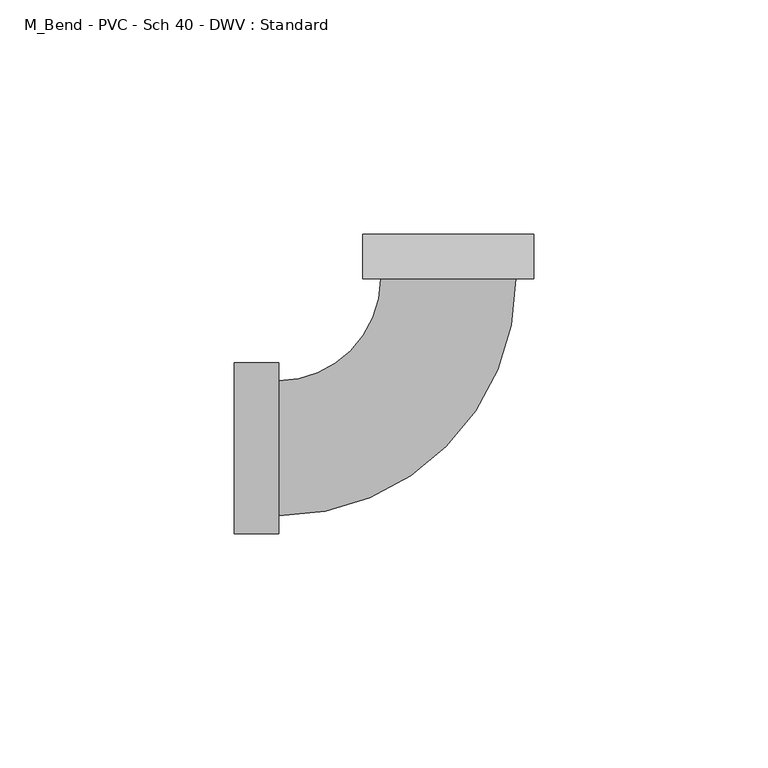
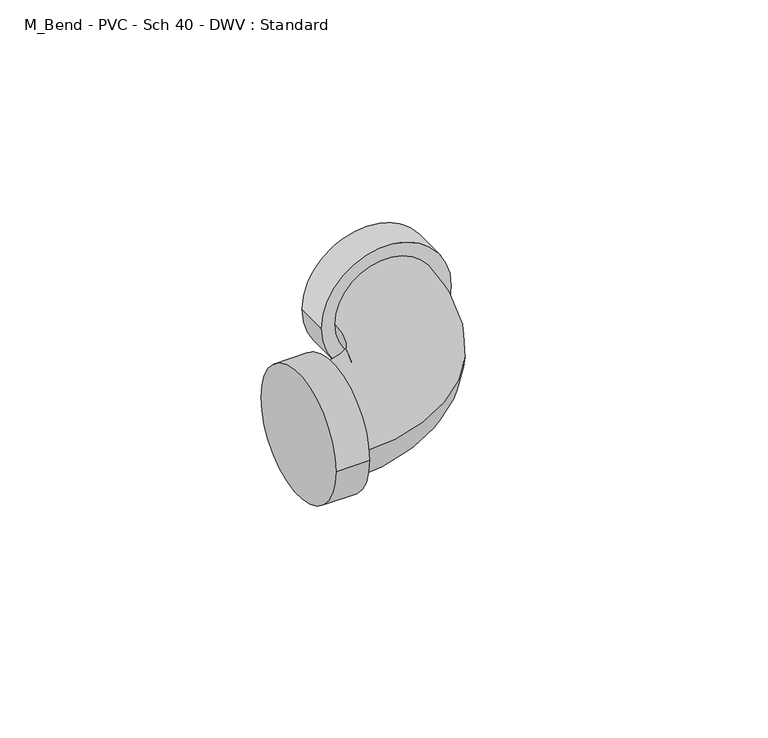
"""IFC4 building model written with IfcOpenShell, lengths in millimetres: pipe fitting geometry, M_Bend - PVC - Sch 40 - DWV : Standard."""

from ifc_helpers import new_model, si_unit, point, frame, origin, place, context, project, spatial, circle_curve, ellipse_curve, trimmed, source, transform, mapped, element, save
from ifc_brep_helpers import plane_surface, cylinder_surface, revolved_surface, advanced_brep


def m_bend_pvc_sch_40_dwv_standard_6b4332b1(model_context):
    return source(origin(), model_context, "Body", "AdvancedBrep", [
        advanced_brep(
        [(-45.6540625, -18.2471094, 0.0), (-45.6540625, 18.2471094, 0.0), (-36.1540625, -18.2471094, 0.0), (-36.1540625, 18.2471094, 0.0), (-36.1540625, -14.4440625, 0.0), (-36.1540625, 14.4440625, 0.0), (-14.4441147, 36.1540417, 0.0), (14.4440103, 36.1540833, 0.0), (18.2470572, 36.1540888, 0.0), (-18.2471615, 36.1540362, 0.0), (18.2470435, 45.6540888, 0.0), (-18.2471752, 45.6540362, 0.0)],
        [
            (0, 1, circle_curve(frame((-45.6540625, 0.0, 0.0), z_axis=(-1.0, 0.0, 0.0), x_axis=(0.0, 1.0, 0.0)), 18.2471094)),
            (1, 0, circle_curve(frame((-45.6540625, 0.0, 0.0), z_axis=(-1.0, 0.0, 0.0), x_axis=(0.0, 1.0, 0.0)), 18.2471094)),
            (2, 3, circle_curve(frame((-36.1540625, 0.0, 0.0), z_axis=(1.0, 0.0, 0.0), x_axis=(0.0, 1.0, 0.0)), 18.2471094)),
            (3, 2, circle_curve(frame((-36.1540625, 0.0, 0.0), z_axis=(1.0, 0.0, 0.0), x_axis=(0.0, 1.0, 0.0)), 18.2471094)),
            (4, 5, circle_curve(frame((-36.1540625, 0.0, 0.0), z_axis=(-1.0, 0.0, 0.0), x_axis=(0.0, 1.0, 0.0)), 14.4440625)),
            (5, 4, circle_curve(frame((-36.1540625, 0.0, 0.0), z_axis=(-1.0, 0.0, 0.0), x_axis=(0.0, 1.0, 0.0)), 14.4440625)),
            (0, 2),
            (3, 1),
            (6, 5, circle_curve(frame((-36.1540625, 36.1540103, 0.0), z_axis=(0.0, 0.0, -1.0), x_axis=(0.0, -1.0, 0.0)), 21.7099478)),
            (4, 7, circle_curve(frame((-36.1540625, 36.1540103, 0.0), z_axis=(0.0, 0.0, 1.0), x_axis=(0.0, -1.0, 0.0)), 50.5980728)),
            (7, 6, circle_curve(frame((-5.22e-05, 36.1540625, 0.0), z_axis=(1.4426912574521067e-06, -0.9999999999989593, 0.0), x_axis=(-0.9999999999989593, -1.4426912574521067e-06, 0.0)), 14.4440625)),
            (6, 7, circle_curve(frame((-5.22e-05, 36.1540625, 0.0), z_axis=(1.4426912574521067e-06, -0.9999999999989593, 0.0), x_axis=(-0.9999999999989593, -1.4426912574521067e-06, 0.0)), 14.4440625)),
            (8, 9, circle_curve(frame((-5.22e-05, 36.1540625, 0.0), z_axis=(1.4426912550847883e-06, -0.9999999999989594, 0.0), x_axis=(-0.9999999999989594, -1.4426912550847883e-06, 0.0)), 18.2471094)),
            (9, 8, circle_curve(frame((-5.22e-05, 36.1540625, 0.0), z_axis=(1.4426912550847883e-06, -0.9999999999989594, 0.0), x_axis=(-0.9999999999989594, -1.4426912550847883e-06, 0.0)), 18.2471094)),
            (10, 11, circle_curve(frame((-6.59e-05, 45.6540625, 0.0), z_axis=(-1.4426912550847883e-06, 0.9999999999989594, 0.0), x_axis=(-0.9999999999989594, -1.4426912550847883e-06, 0.0)), 18.2471094)),
            (11, 10, circle_curve(frame((-6.59e-05, 45.6540625, 0.0), z_axis=(-1.4426912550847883e-06, 0.9999999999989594, 0.0), x_axis=(-0.9999999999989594, -1.4426912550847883e-06, 0.0)), 18.2471094)),
            (8, 10),
            (11, 9),
        ],
        [
            plane_surface(frame((-45.6540625, 0.0, 0.0), z_axis=(-1.0, 0.0, 0.0), x_axis=(0.0, 0.0, 1.0))),
            plane_surface(frame((-36.1540625, 0.0, 0.0), z_axis=(1.0, 0.0, 0.0), x_axis=(0.0, 0.0, 1.0))),
            cylinder_surface(frame((-45.6540625, 0.0, 0.0), z_axis=(-1.0, 0.0, 0.0), x_axis=(0.0, 1.0, 0.0)), 18.2471094),
            revolved_surface(trimmed(ellipse_curve(frame((-36.1540625, 0.0, 0.0), z_axis=(-1.0, 0.0, 0.0), x_axis=(0.0, 1.0, 0.0)), 14.4440625, 14.4440625), [point((-36.1540625, -14.4440625, 0.0))], [point((-36.1540625, 14.4440625, 0.0))], True, "CARTESIAN"), (-36.1540625, 36.1540103, 0.0), (0.0, 0.0, 1.0)),
            revolved_surface(trimmed(ellipse_curve(frame((-36.1540625, 0.0, 0.0), z_axis=(-1.0, 0.0, 0.0), x_axis=(0.0, 1.0, 0.0)), 14.4440625, 14.4440625), [point((-36.1540625, 14.4440625, 0.0))], [point((-36.1540625, -14.4440625, 0.0))], True, "CARTESIAN"), (-36.1540625, 36.1540103, 0.0), (0.0, 0.0, 1.0)),
            plane_surface(frame((-5.22e-05, 36.1540625, 0.0), z_axis=(1.4426912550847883e-06, -0.9999999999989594, 0.0), x_axis=(0.0, 0.0, 1.0))),
            plane_surface(frame((-6.59e-05, 45.6540625, 0.0), z_axis=(-1.4426912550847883e-06, 0.9999999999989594, 0.0), x_axis=(0.0, 0.0, 1.0))),
            cylinder_surface(frame((-5.22e-05, 36.1540625, 0.0), z_axis=(1.4426912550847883e-06, -0.9999999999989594, 0.0), x_axis=(-0.9999999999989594, -1.4426912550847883e-06, 0.0)), 18.2471094),
        ],
        [
            (0, [[1, 2]]),
            (1, [[3, 4], [5, 6]]),
            (2, [[-1, 7, -4, 8]]),
            (2, [[-2, -8, -3, -7]]),
            (3, [[9, -5, 10, 11]]),
            (4, [[-9, 12, -10, -6]]),
            (5, [[13, 14], [-11, -12]]),
            (6, [[15, 16]]),
            (7, [[-13, 17, -16, 18]]),
            (7, [[-14, -18, -15, -17]]),
        ],
    ),
    ])


if __name__ == "__main__":
    model = new_model("IFC4")
    model_context = context("Model", 3, world=origin())
    ifc_project = project(units=[si_unit("LENGTHUNIT", "METRE", prefix="MILLI")], contexts=[model_context])
    site = spatial("IfcSite", under=ifc_project)
    building = spatial("IfcBuilding", under=site)
    placement = place(None, origin())
    m_bend_pvc_sch_40_dwv_standard_shape = m_bend_pvc_sch_40_dwv_standard_6b4332b1(model_context)
    element("IfcPipeFitting", 1, ObjectType="M_Bend - PVC - Sch 40 - DWV : Standard", at=placement, inside=building, context=model_context, shape_type="MappedRepresentation", body=[
        mapped(m_bend_pvc_sch_40_dwv_standard_shape, transform((0.0, 0.0, 0.0), x_axis=(1.0, 0.0, 0.0), y_axis=(0.0, 1.0, 0.0), z_axis=(0.0, 0.0, 1.0))),
    ])
    save(model, "model.ifc")
